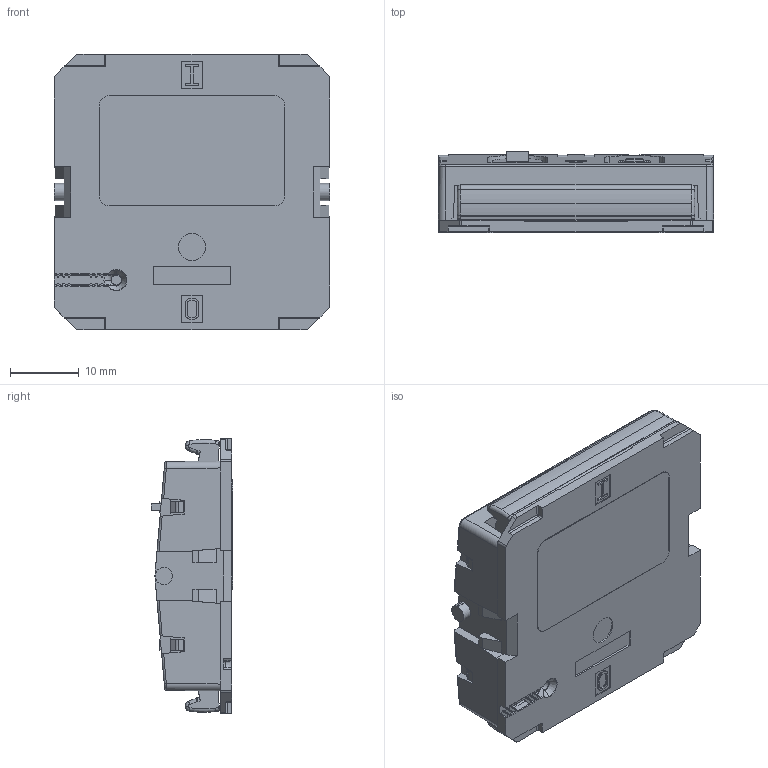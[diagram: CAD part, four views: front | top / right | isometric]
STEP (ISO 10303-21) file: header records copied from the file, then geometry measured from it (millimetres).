
FILE_DESCRIPTION (( 'STEP AP203' ), '1' );
FILE_NAME ('EinbauanweisungPTM210-Schaltsteg-gedrückt_14-04-2020.STEP', '2020-04-20T18:52:28', ( '' ), ( '' ), 'SwSTEP 2.0', 'SolidWorks 2014', '' );
FILE_SCHEMA (( 'CONFIG_CONTROL_DESIGN' ));
Length unit declared in the file: millimetre
Products named in the file (3): EinbauanweisungSchaltsteg_gedrückt; PTM210_2_Block; EinbauanweisungPTM210-Schaltsteg-gedrückt_14-04-2020
Assembly tree (2 placements, depth 2):
  EinbauanweisungPTM210-Schaltsteg-gedrückt_14-04-2020
    PTM210_2_Block
    EinbauanweisungSchaltsteg_gedrückt
Bounding box: 40 x 11.81 x 40 mm (x, y, z)
Volume: 13768.2 mm3; surface area: 8458.5 mm2
Topology: 3 solids, 3 shells, 1095 faces, 2936 edges, 1862 vertices
Faces by surface type: plane 545, cylinder 399, bspline 75, torus 37, cone 23, sphere 16
Entity records: 37125 total; most frequent: CARTESIAN_POINT 10622, ORIENTED_EDGE 5840, DIRECTION 4983, EDGE_CURVE 2920, VERTEX_POINT 1862, LINE 1855, VECTOR 1855, AXIS2_PLACEMENT_3D 1564
